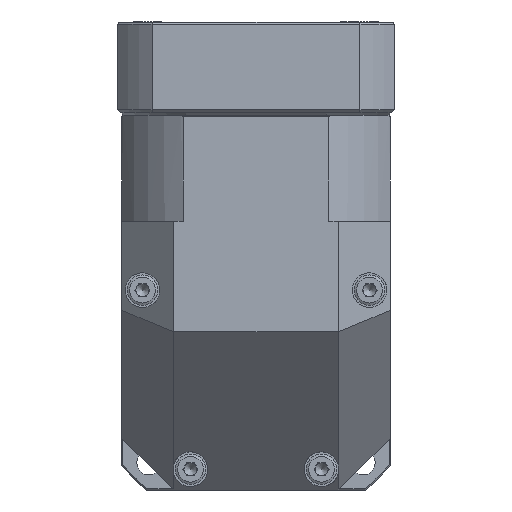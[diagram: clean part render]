
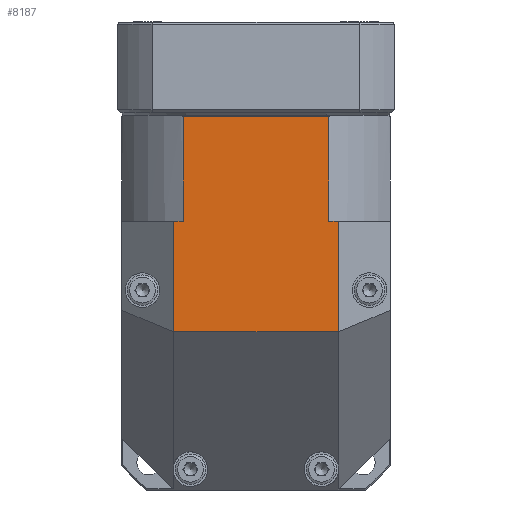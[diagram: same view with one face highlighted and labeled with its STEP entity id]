
A CAD part, front view. The second image highlights one B-rep face of the part: STEP entity #8187.
In plain terms, the highlighted planar face has unit normal (0, -1, 0).
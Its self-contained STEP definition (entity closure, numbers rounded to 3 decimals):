
#8116=CARTESIAN_POINT('',(-31.0,-31.0,55.5));
#8117=DIRECTION('',(0.0,-1.0,0.0));
#8118=DIRECTION('',(0.0,0.0,-1.0));
#8119=AXIS2_PLACEMENT_3D('',#8116,#8117,#8118);
#8120=PLANE('',#8119);
#8121=CARTESIAN_POINT('',(19.,-31.,5.5));
#8122=VERTEX_POINT('',#8121);
#8123=CARTESIAN_POINT('',(19.,-31.0,31.));
#8124=VERTEX_POINT('',#8123);
#8125=CARTESIAN_POINT('',(19.,-31.0,5.5));
#8126=DIRECTION('',(0.0,0.0,1.0));
#8127=VECTOR('',#8126,25.5);
#8128=LINE('',#8125,#8127);
#8129=EDGE_CURVE('',#8122,#8124,#8128,.T.);
#8130=ORIENTED_EDGE('',*,*,#8129,.T.);
#8131=CARTESIAN_POINT('',(16.78,-31.0,31.));
#8132=VERTEX_POINT('',#8131);
#8133=CARTESIAN_POINT('',(19.,-31.0,31.));
#8134=DIRECTION('',(-1.0,0.0,0.0));
#8135=VECTOR('',#8134,2.22);
#8136=LINE('',#8133,#8135);
#8137=EDGE_CURVE('',#8124,#8132,#8136,.T.);
#8138=ORIENTED_EDGE('',*,*,#8137,.T.);
#8139=CARTESIAN_POINT('',(16.78,-31.0,55.2));
#8140=VERTEX_POINT('',#8139);
#8141=CARTESIAN_POINT('',(16.78,-31.0,31.));
#8142=DIRECTION('',(0.0,0.0,1.0));
#8143=VECTOR('',#8142,24.2);
#8144=LINE('',#8141,#8143);
#8145=EDGE_CURVE('',#8132,#8140,#8144,.T.);
#8146=ORIENTED_EDGE('',*,*,#8145,.T.);
#8147=CARTESIAN_POINT('',(-16.78,-31.0,55.2));
#8148=VERTEX_POINT('',#8147);
#8149=CARTESIAN_POINT('',(16.78,-31.0,55.2));
#8150=DIRECTION('',(-1.0,0.0,0.0));
#8151=VECTOR('',#8150,33.56);
#8152=LINE('',#8149,#8151);
#8153=EDGE_CURVE('',#8140,#8148,#8152,.T.);
#8154=ORIENTED_EDGE('',*,*,#8153,.T.);
#8155=CARTESIAN_POINT('',(-16.78,-31.0,31.));
#8156=VERTEX_POINT('',#8155);
#8157=CARTESIAN_POINT('',(-16.78,-31.0,55.2));
#8158=DIRECTION('',(0.0,0.0,-1.0));
#8159=VECTOR('',#8158,24.2);
#8160=LINE('',#8157,#8159);
#8161=EDGE_CURVE('',#8148,#8156,#8160,.T.);
#8162=ORIENTED_EDGE('',*,*,#8161,.T.);
#8163=CARTESIAN_POINT('',(-19.,-31.0,31.));
#8164=VERTEX_POINT('',#8163);
#8165=CARTESIAN_POINT('',(-16.78,-31.0,31.));
#8166=DIRECTION('',(-1.0,0.0,0.0));
#8167=VECTOR('',#8166,2.22);
#8168=LINE('',#8165,#8167);
#8169=EDGE_CURVE('',#8156,#8164,#8168,.T.);
#8170=ORIENTED_EDGE('',*,*,#8169,.T.);
#8171=CARTESIAN_POINT('',(-19.,-31.,5.5));
#8172=VERTEX_POINT('',#8171);
#8173=CARTESIAN_POINT('',(-19.,-31.0,31.));
#8174=DIRECTION('',(0.0,0.0,-1.0));
#8175=VECTOR('',#8174,25.5);
#8176=LINE('',#8173,#8175);
#8177=EDGE_CURVE('',#8164,#8172,#8176,.T.);
#8178=ORIENTED_EDGE('',*,*,#8177,.T.);
#8179=CARTESIAN_POINT('',(19.,-31.,5.5));
#8180=DIRECTION('',(-1.0,0.0,0.0));
#8181=VECTOR('',#8180,38.);
#8182=LINE('',#8179,#8181);
#8183=EDGE_CURVE('',#8122,#8172,#8182,.T.);
#8184=ORIENTED_EDGE('',*,*,#8183,.F.);
#8185=EDGE_LOOP('',(#8130,#8138,#8146,#8154,#8162,#8170,#8178,#8184));
#8186=FACE_OUTER_BOUND('',#8185,.T.);
#8187=ADVANCED_FACE('',(#8186),#8120,.T.);
